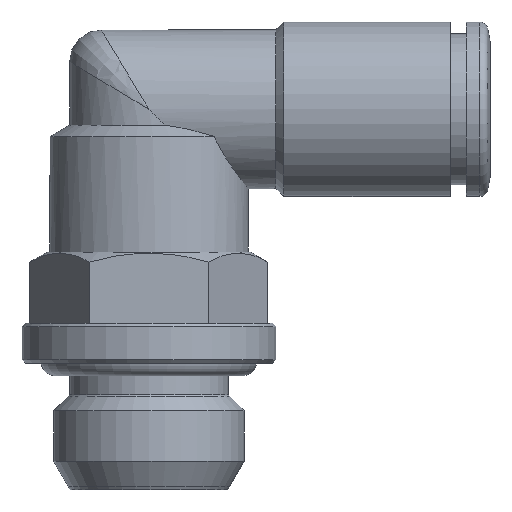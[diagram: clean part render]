
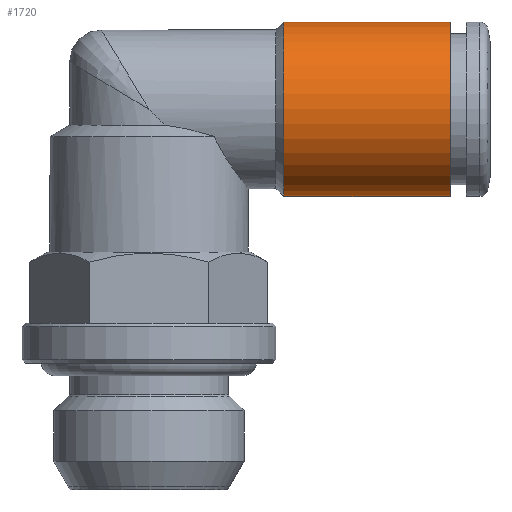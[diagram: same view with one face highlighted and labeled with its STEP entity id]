
A CAD part, front view. The second image highlights one B-rep face of the part: STEP entity #1720.
In plain terms, the highlighted cylindrical face has radius 5.5 mm (diameter 11 mm), a full revolution.
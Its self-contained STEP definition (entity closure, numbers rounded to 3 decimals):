
#1720=ADVANCED_FACE('', (#1730,#1740), #1750, .T.);
#5740=AXIS2_PLACEMENT_3D('Ax2Pl3d', #5750, #5760, #5770);
#6660=AXIS2_PLACEMENT_3D('Ax2Pl3d', #6670, #6680, #6690);
#6700=AXIS2_PLACEMENT_3D('Ax2Pl3d', #6710, #6720, #6730);
#5750=CARTESIAN_POINT('HicPkt', (33.893,12.125,
28.121));
#21570=CARTESIAN_POINT('', (33.893,12.125,33.621));
#6670=CARTESIAN_POINT('HicPkt', (33.893,12.125,
28.121));
#6710=CARTESIAN_POINT('HicPkt', (23.393,12.125,
28.121));
#21710=CARTESIAN_POINT('', (23.393,12.125,33.621));
#22550=CIRCLE('Circle', #5740, 5.5);
#22650=CIRCLE('Circle', #6700, 5.5);
#1750=CYLINDRICAL_SURFACE('Zyl', #6660, 5.5);
#5760=DIRECTION('Axis', (1.,0.,0.));
#5770=DIRECTION('RefDirection', (0.,-0.,-1.));
#6680=DIRECTION('Axis', (-1.,0.,0.))
;
#6690=DIRECTION('RefDirection', (0.,
0.,-1.));
#6720=DIRECTION('Axis', (1.,0.,0.));
#6730=DIRECTION('RefDirection', (0.,-0.,-1.));
#26410=EDGE_CURVE('', #26420, #26420, #22550, .T.);
#26790=EDGE_CURVE('', #26800, #26800, #22650, .T.);
#29460=EDGE_LOOP('Edge_loop', (#29470));
#29480=EDGE_LOOP('Edge_loop', (#29490));
#1740=FACE_BOUND('', #29480, .T.);
#1730=FACE_OUTER_BOUND('Face_outer_bound', #29460, .T.);
#29470=ORIENTED_EDGE('', *, *, #26790, .T.);
#29490=ORIENTED_EDGE('', *, *, #26410, .F.);
#26420=VERTEX_POINT('', #21570);
#26800=VERTEX_POINT('', #21710);
